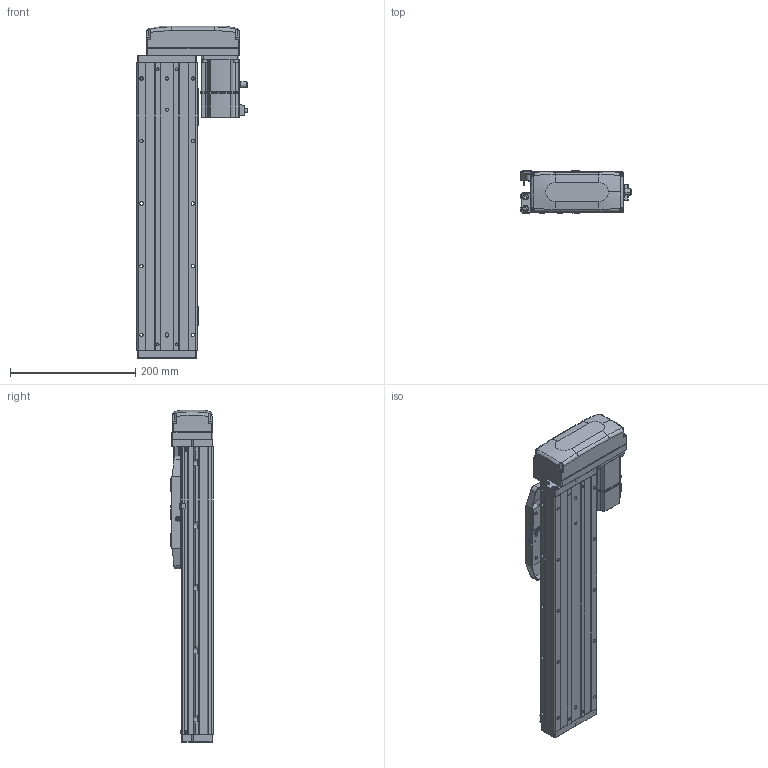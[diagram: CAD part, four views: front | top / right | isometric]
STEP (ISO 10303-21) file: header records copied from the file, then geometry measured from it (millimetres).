
FILE_DESCRIPTION (( 'STEP AP203' ), '1' );
FILE_NAME ('CTHA100-250-BL-M20-C4L.step', '2022-07-06T08:56:43', ( '微软用户' ), ( '微软中国' ), 'SwSTEP 2.0', 'SolidWorks 2020', '' );
FILE_SCHEMA (( 'CONFIG_CONTROL_DESIGN' ));
Length unit declared in the file: millimetre
Products named in the file (19): KTHA100-004; GBT 70.1-M3℅6; GBT 70.3-M3℅6; KTHA100-005; GBT70.1 M5℅16; CTHA86-015-1_CTHA86-015-2; GB¨uT 70.2-M3¡Á5_M3¡Á6; CTHA60-016; CTHA86-033; EE_SX911P_R; _X2_4E0983F1_X0_200W_1; CTHA100-250-BL-M20-C4L; CTHA60-017; CTHA100-002; CTHA60-021; CTHA100-031; KTHA100-001_460; GBT77-2000 M3×3; CTHA86-030
Assembly tree (64 placements, depth 2):
  CTHA100-250-BL-M20-C4L
    KTHA100-001_460
    KTHA100-004
    KTHA100-005
    GB¨uT 70.2-M3¡Á5_M3¡Á6  x10
    EE_SX911P_R  x3
    CTHA60-017  x3
    CTHA60-021  x2
    GBT77-2000 M3×3  x6
    GBT 70.1-M3℅6  x10
    GBT70.1 M5℅16  x14
    CTHA60-016  x2
    _X2_4E0983F1_X0_200W_1
    CTHA100-002
    CTHA100-031
    CTHA86-030  x2
    GBT 70.3-M3℅6  x4
    CTHA86-015-1_CTHA86-015-2
    CTHA86-033
Bounding box: 177.7 x 68 x 531 mm (x, y, z)
Volume: 2582501.6 mm3; surface area: 457753.5 mm2
Topology: 66 solids, 66 shells, 2609 faces, 6247 edges, 3868 vertices
Faces by surface type: plane 1356, cylinder 683, cone 347, torus 124, bspline 75, sphere 24
Entity records: 44054 total; most frequent: CARTESIAN_POINT 8699, DIRECTION 6764, ORIENTED_EDGE 6610, EDGE_CURVE 3305, AXIS2_PLACEMENT_3D 2305, LINE 2154, VECTOR 2154, VERTEX_POINT 2088
